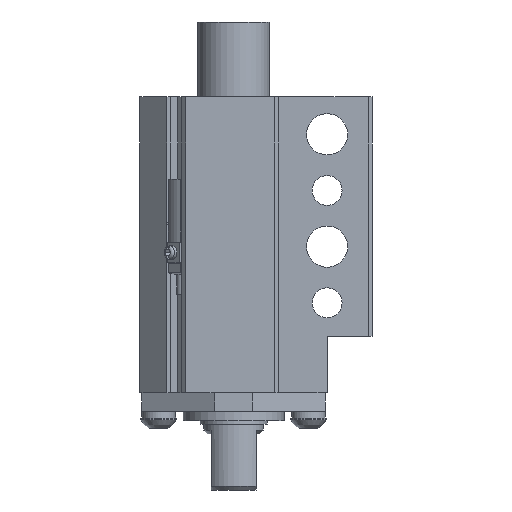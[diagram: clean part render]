
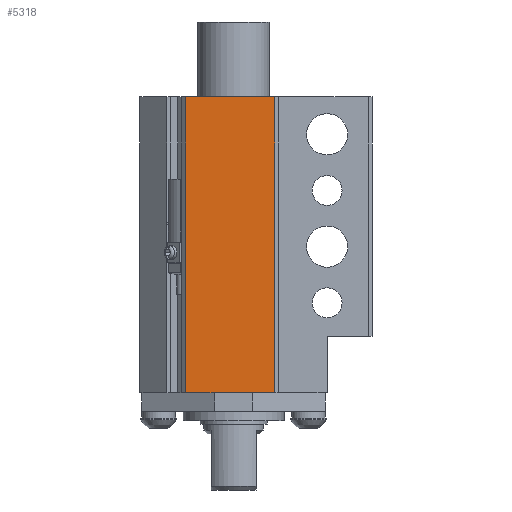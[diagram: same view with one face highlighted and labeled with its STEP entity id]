
A CAD part, front view. The second image highlights one B-rep face of the part: STEP entity #5318.
In plain terms, the highlighted planar face has unit normal (0, -1, 0).
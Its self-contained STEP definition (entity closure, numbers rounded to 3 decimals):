
#411=PLANE('',#6024);
#665=FACE_OUTER_BOUND('',#963,.T.);
#963=EDGE_LOOP('',(#4682,#4683,#4684,#4685));
#1450=LINE('',#8935,#1959);
#1472=LINE('',#9012,#1981);
#1475=LINE('',#9018,#1984);
#1476=LINE('',#9019,#1985);
#1959=VECTOR('',#7257,10.);
#1981=VECTOR('',#7341,10.);
#1984=VECTOR('',#7346,10.);
#1985=VECTOR('',#7347,10.);
#2665=VERTEX_POINT('',#8932);
#2666=VERTEX_POINT('',#8934);
#2690=VERTEX_POINT('',#9011);
#2692=VERTEX_POINT('',#9017);
#3347=EDGE_CURVE('',#2665,#2666,#1450,.T.);
#3384=EDGE_CURVE('',#2666,#2690,#1472,.T.);
#3387=EDGE_CURVE('',#2665,#2692,#1475,.T.);
#3388=EDGE_CURVE('',#2690,#2692,#1476,.T.);
#4682=ORIENTED_EDGE('',*,*,#3384,.F.);
#4683=ORIENTED_EDGE('',*,*,#3347,.F.);
#4684=ORIENTED_EDGE('',*,*,#3387,.T.);
#4685=ORIENTED_EDGE('',*,*,#3388,.F.);
#5318=ADVANCED_FACE('',(#665),#411,.T.);
#6024=AXIS2_PLACEMENT_3D('',#9016,#7344,#7345);
#7257=DIRECTION('',(1.,0.,0.));
#7341=DIRECTION('',(0.,0.,-1.));
#7344=DIRECTION('center_axis',(0.,-1.,0.));
#7345=DIRECTION('ref_axis',(1.,0.,0.));
#7346=DIRECTION('',(0.,0.,-1.));
#7347=DIRECTION('',(-1.,0.,0.));
#8932=CARTESIAN_POINT('',(-12.77,-19.05,79.));
#8934=CARTESIAN_POINT('',(11.,-19.05,79.));
#8935=CARTESIAN_POINT('',(37.,-19.05,79.));
#9011=CARTESIAN_POINT('',(11.,-19.05,0.));
#9012=CARTESIAN_POINT('',(11.,-19.05,0.));
#9016=CARTESIAN_POINT('Origin',(-25.,-19.05,0.));
#9017=CARTESIAN_POINT('',(-12.77,-19.05,0.));
#9018=CARTESIAN_POINT('',(-12.77,-19.05,0.));
#9019=CARTESIAN_POINT('',(37.,-19.05,0.));
